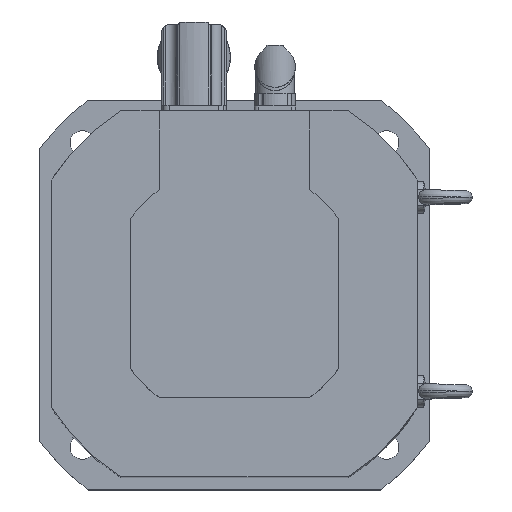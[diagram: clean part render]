
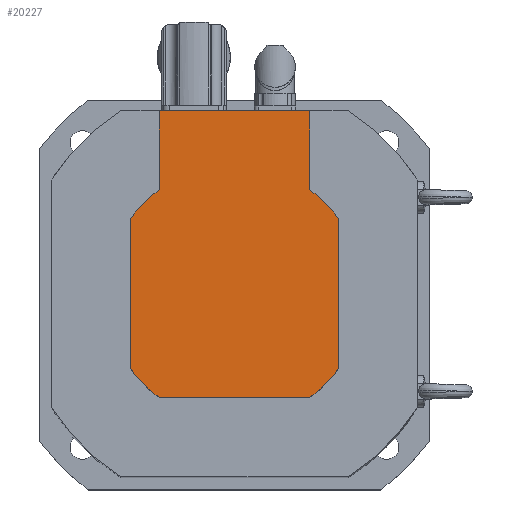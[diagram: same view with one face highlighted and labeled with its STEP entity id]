
A CAD part, top view. The second image highlights one B-rep face of the part: STEP entity #20227.
In plain terms, the highlighted planar face has unit normal (0, 0, 1).
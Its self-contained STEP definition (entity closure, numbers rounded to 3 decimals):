
#19791=CARTESIAN_POINT('',(64.,46.314,54.));
#19792=VERTEX_POINT('',#19791);
#19799=CARTESIAN_POINT('',(64.,-46.314,54.));
#19800=VERTEX_POINT('',#19799);
#19801=CARTESIAN_POINT('',(64.,-46.314,54.));
#19802=DIRECTION('',(0.0,1.0,0.0));
#19803=VECTOR('',#19802,92.628);
#19804=LINE('',#19801,#19803);
#19805=EDGE_CURVE('',#19800,#19792,#19804,.T.);
#19830=CARTESIAN_POINT('',(-64.,-46.314,54.));
#19831=VERTEX_POINT('',#19830);
#19838=CARTESIAN_POINT('',(-64.,46.314,54.));
#19839=VERTEX_POINT('',#19838);
#19840=CARTESIAN_POINT('',(-64.,46.314,54.));
#19841=DIRECTION('',(0.0,-1.0,0.0));
#19842=VECTOR('',#19841,92.628);
#19843=LINE('',#19840,#19842);
#19844=EDGE_CURVE('',#19839,#19831,#19843,.T.);
#19861=CARTESIAN_POINT('',(46.314,-64.,54.));
#19862=VERTEX_POINT('',#19861);
#19869=CARTESIAN_POINT('',(-46.314,-64.,54.));
#19870=VERTEX_POINT('',#19869);
#19871=CARTESIAN_POINT('',(-46.314,-64.,54.));
#19872=DIRECTION('',(1.0,0.0,0.0));
#19873=VECTOR('',#19872,92.628);
#19874=LINE('',#19871,#19873);
#19875=EDGE_CURVE('',#19870,#19862,#19874,.T.);
#19893=CARTESIAN_POINT('',(0.0,0.0,54.0));
#19894=DIRECTION('',(0.0,0.0,-1.0));
#19895=DIRECTION('',(-1.0,0.0,0.0));
#19896=AXIS2_PLACEMENT_3D('',#19893,#19894,#19895);
#19897=CIRCLE('',#19896,79.0);
#19898=EDGE_CURVE('',#19800,#19862,#19897,.T.);
#19912=CARTESIAN_POINT('',(46.314,64.0,54.));
#19913=VERTEX_POINT('',#19912);
#19920=CARTESIAN_POINT('',(0.0,0.0,54.0));
#19921=DIRECTION('',(0.0,0.0,-1.0));
#19922=DIRECTION('',(-1.0,0.0,0.0));
#19923=AXIS2_PLACEMENT_3D('',#19920,#19921,#19922);
#19924=CIRCLE('',#19923,79.0);
#19925=EDGE_CURVE('',#19913,#19792,#19924,.T.);
#19936=CARTESIAN_POINT('',(-46.314,64.0,54.));
#19937=VERTEX_POINT('',#19936);
#19938=CARTESIAN_POINT('',(0.0,0.0,54.0));
#19939=DIRECTION('',(0.0,0.0,-1.0));
#19940=DIRECTION('',(-1.0,0.0,0.0));
#19941=AXIS2_PLACEMENT_3D('',#19938,#19939,#19940);
#19942=CIRCLE('',#19941,79.0);
#19943=EDGE_CURVE('',#19839,#19937,#19942,.T.);
#19963=CARTESIAN_POINT('',(0.0,0.0,54.0));
#19964=DIRECTION('',(0.0,0.0,-1.0));
#19965=DIRECTION('',(-1.0,0.0,0.0));
#19966=AXIS2_PLACEMENT_3D('',#19963,#19964,#19965);
#19967=CIRCLE('',#19966,79.0);
#19968=EDGE_CURVE('',#19870,#19831,#19967,.T.);
#19979=CARTESIAN_POINT('',(-46.314,112.5,54.));
#19980=VERTEX_POINT('',#19979);
#19981=CARTESIAN_POINT('',(-46.314,64.0,54.));
#19982=DIRECTION('',(0.0,1.0,0.0));
#19983=VECTOR('',#19982,48.5);
#19984=LINE('',#19981,#19983);
#19985=EDGE_CURVE('',#19937,#19980,#19984,.T.);
#20004=CARTESIAN_POINT('',(46.314,112.5,54.));
#20005=VERTEX_POINT('',#20004);
#20012=CARTESIAN_POINT('',(46.314,64.0,54.));
#20013=DIRECTION('',(0.0,1.0,0.0));
#20014=VECTOR('',#20013,48.5);
#20015=LINE('',#20012,#20014);
#20016=EDGE_CURVE('',#19913,#20005,#20015,.T.);
#20205=CARTESIAN_POINT('',(64.,-64.,54.0));
#20206=DIRECTION('',(0.0,0.0,-1.0));
#20207=DIRECTION('',(-1.0,0.0,0.0));
#20208=AXIS2_PLACEMENT_3D('',#20205,#20206,#20207);
#20209=PLANE('',#20208);
#20210=ORIENTED_EDGE('',*,*,#19943,.F.);
#20211=ORIENTED_EDGE('',*,*,#19844,.T.);
#20212=ORIENTED_EDGE('',*,*,#19968,.F.);
#20213=ORIENTED_EDGE('',*,*,#19875,.T.);
#20214=ORIENTED_EDGE('',*,*,#19898,.F.);
#20215=ORIENTED_EDGE('',*,*,#19805,.T.);
#20216=ORIENTED_EDGE('',*,*,#19925,.F.);
#20217=ORIENTED_EDGE('',*,*,#20016,.T.);
#20218=CARTESIAN_POINT('',(-46.314,112.5,54.));
#20219=DIRECTION('',(1.0,0.0,0.0));
#20220=VECTOR('',#20219,92.628);
#20221=LINE('',#20218,#20220);
#20222=EDGE_CURVE('',#19980,#20005,#20221,.T.);
#20223=ORIENTED_EDGE('',*,*,#20222,.F.);
#20224=ORIENTED_EDGE('',*,*,#19985,.F.);
#20225=EDGE_LOOP('',(#20210,#20211,#20212,#20213,#20214,#20215,#20216,#20217,#20223,#20224));
#20226=FACE_OUTER_BOUND('',#20225,.T.);
#20227=ADVANCED_FACE('',(#20226),#20209,.F.);
